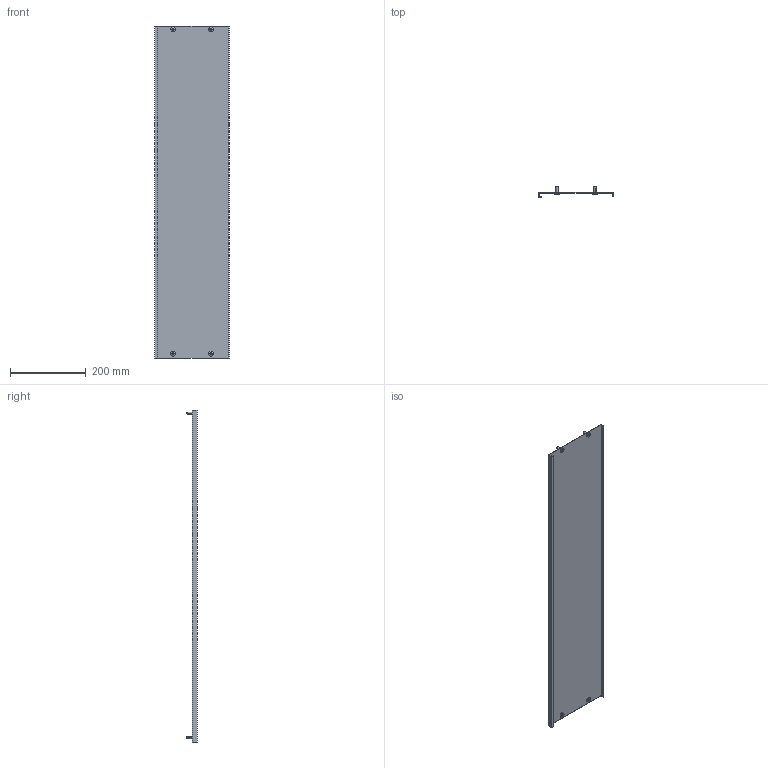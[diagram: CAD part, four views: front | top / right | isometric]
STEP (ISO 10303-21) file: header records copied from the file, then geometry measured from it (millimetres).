
FILE_DESCRIPTION (( 'STEP AP214' ), '1' );
FILE_NAME ('FO-00-PVS-020-100 Ïëàñòðîí ãëóõîé âíóòðåííèé 200õ1000.STEP', '2025-09-29T19:07:49', ( '' ), ( '' ), 'SwSTEP 2.0', 'SolidWorks 2023', '' );
FILE_SCHEMA (( 'AUTOMOTIVE_DESIGN' ));
Length unit declared in the file: millimetre
Products named in the file (3): Винт M6x16 25-100 IEK; FO-00-PVS-020-100 Пластрон глухой внутренний 200х1000
Assembly tree (3 placements, depth 2):
  FO-00-PVS-020-100 Пластрон глухой внутренний 200х1000
    FO-00-PVS-020-100 Пластрон глухой внутренний 200х1000
    Винт M6x16 25-100 IEK  x2
Bounding box: 198 x 27 x 879 mm (x, y, z)
Volume: 298188.5 mm3; surface area: 399483.5 mm2
Topology: 5 solids, 5 shells, 150 faces, 392 edges, 256 vertices
Faces by surface type: cylinder 88, plane 42, cone 12, bspline 8
Entity records: 3233 total; most frequent: CARTESIAN_POINT 724, ORIENTED_EDGE 512, DIRECTION 500, EDGE_CURVE 256, AXIS2_PLACEMENT_3D 180, VERTEX_POINT 168, VECTOR 140, LINE 140
